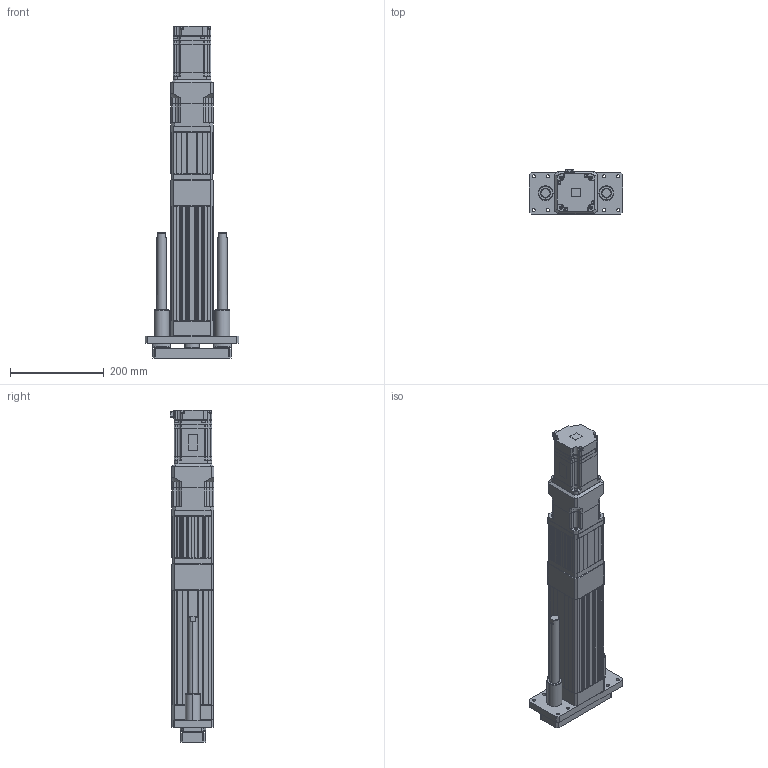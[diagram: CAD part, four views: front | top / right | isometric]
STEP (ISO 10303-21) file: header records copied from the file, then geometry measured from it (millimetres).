
FILE_DESCRIPTION (( 'STEP AP203' ), '1' );
FILE_NAME ('ANS090H-GS100-05(10)(25)-W75G05.STEP', '2019-03-18T01:48:36', ( 'user' ), ( '' ), 'SwSTEP 2.0', 'SolidWorks 2013', '' );
FILE_SCHEMA (( 'CONFIG_CONTROL_DESIGN' ));
Length unit declared in the file: millimetre
Products named in the file (5): ANS090H GS100 VER2; ANS090 ROD ST100-G; SGMJV_08A_A21; AB090-005-S1-P2[YASKAWA SGMJV08A]; ANS090H-GS100-05(10)(25)-W75G05
Assembly tree (4 placements, depth 2):
  ANS090H-GS100-05(10)(25)-W75G05
    ANS090H GS100 VER2
    ANS090 ROD ST100-G
    SGMJV_08A_A21
    AB090-005-S1-P2[YASKAWA SGMJV08A]
Bounding box: 200 x 93.8 x 708.1 mm (x, y, z)
Volume: 3311007.6 mm3; surface area: 601480.6 mm2
Topology: 3 solids, 14 shells, 1903 faces, 5056 edges, 3262 vertices
Faces by surface type: plane 1124, cylinder 581, cone 182, bspline 12, torus 4
Entity records: 59660 total; most frequent: CARTESIAN_POINT 11290, ORIENTED_EDGE 9984, DIRECTION 9947, EDGE_CURVE 5036, LINE 3517, VECTOR 3517, VERTEX_POINT 3262, AXIS2_PLACEMENT_3D 3215
